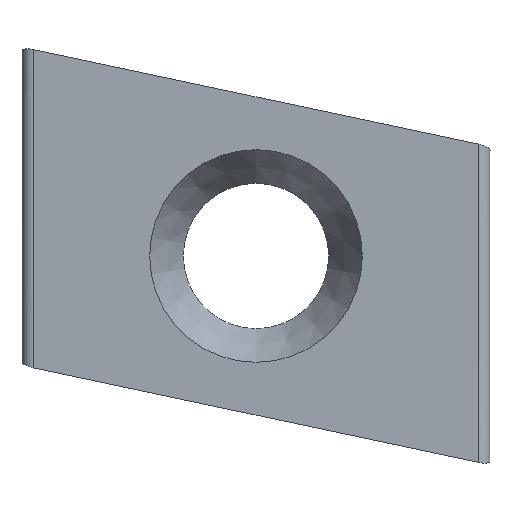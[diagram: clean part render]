
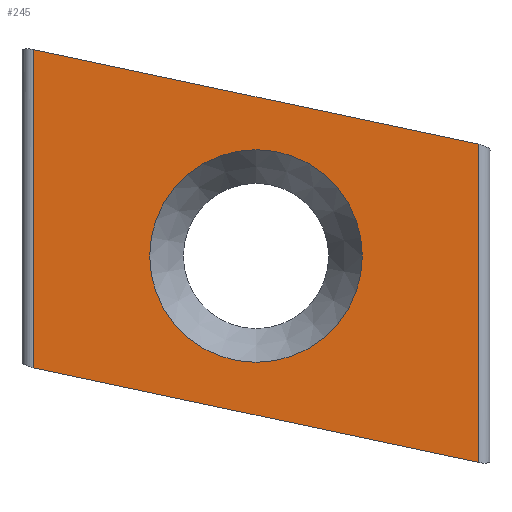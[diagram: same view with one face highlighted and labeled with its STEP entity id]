
A CAD part, front view. The second image highlights one B-rep face of the part: STEP entity #245.
In plain terms, the highlighted planar face has unit normal (0, -1, 0).
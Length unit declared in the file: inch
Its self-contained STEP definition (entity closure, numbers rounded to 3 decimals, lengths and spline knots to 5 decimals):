
#3 = CARTESIAN_POINT ( 'NONE',  ( -0.27056, 0., 0.51155 ) ) ;
#6 = FACE_BOUND ( 'NONE', #294, .T. ) ;
#16 = VERTEX_POINT ( 'NONE', #91 ) ;
#24 = CARTESIAN_POINT ( 'NONE',  ( -0.2677, 0., 0.12786 ) ) ;
#31 = VECTOR ( 'NONE', #204, 39.37008 ) ;
#44 = CARTESIAN_POINT ( 'NONE',  ( 0., 0., 0.2625 ) ) ;
#56 = EDGE_CURVE ( 'NONE', #151, #229, #237, .T. ) ;
#57 = CARTESIAN_POINT ( 'NONE',  ( 0.2677, 0., 0.39714 ) ) ;
#72 = EDGE_CURVE ( 'NONE', #327, #327, #209, .T. ) ;
#77 = EDGE_CURVE ( 'NONE', #229, #16, #152, .T. ) ;
#84 = VECTOR ( 'NONE', #309, 39.37008 ) ;
#91 = CARTESIAN_POINT ( 'NONE',  ( 0.2677, 0., 0.01405 ) ) ;
#93 = VERTEX_POINT ( 'NONE', #24 ) ;
#97 = CARTESIAN_POINT ( 'NONE',  ( -0.2677, 0., 0.525 ) ) ;
#98 = EDGE_CURVE ( 'NONE', #16, #93, #182, .T. ) ;
#99 = DIRECTION ( 'NONE',  ( -0.978, 0., 0.208 ) ) ;
#116 = ORIENTED_EDGE ( 'NONE', *, *, #72, .F. ) ;
#127 = AXIS2_PLACEMENT_3D ( 'NONE', #133, #291, #165 ) ;
#131 = EDGE_CURVE ( 'NONE', #151, #93, #279, .T. ) ;
#133 = CARTESIAN_POINT ( 'NONE',  ( -0.2677, 0., 0.525 ) ) ;
#151 = VERTEX_POINT ( 'NONE', #155 ) ;
#152 = LINE ( 'NONE', #257, #84 ) ;
#155 = CARTESIAN_POINT ( 'NONE',  ( -0.2677, 0., 0.51095 ) ) ;
#165 = DIRECTION ( 'NONE',  ( -1., 0., 0. ) ) ;
#174 = ORIENTED_EDGE ( 'NONE', *, *, #77, .F. ) ;
#177 = DIRECTION ( 'NONE',  ( 0., -1., 0. ) ) ;
#178 = DIRECTION ( 'NONE',  ( 0.978, 0., -0.208 ) ) ;
#181 = CARTESIAN_POINT ( 'NONE',  ( -0.34847, 0., 0.14502 ) ) ;
#182 = LINE ( 'NONE', #181, #332 ) ;
#190 = PLANE ( 'NONE',  #127 ) ;
#199 = ORIENTED_EDGE ( 'NONE', *, *, #131, .T. ) ;
#204 = DIRECTION ( 'NONE',  ( 0., 0., -1. ) ) ;
#205 = DIRECTION ( 'NONE',  ( 0., 0., -1. ) ) ;
#209 = CIRCLE ( 'NONE', #277, 0.128 ) ;
#222 = ORIENTED_EDGE ( 'NONE', *, *, #56, .F. ) ;
#229 = VERTEX_POINT ( 'NONE', #57 ) ;
#237 = LINE ( 'NONE', #3, #273 ) ;
#245 = ADVANCED_FACE ( 'NONE', ( #6, #313 ), #190, .F. ) ;
#248 = CARTESIAN_POINT ( 'NONE',  ( 0., 0., 0.1345 ) ) ;
#249 = ORIENTED_EDGE ( 'NONE', *, *, #98, .F. ) ;
#257 = CARTESIAN_POINT ( 'NONE',  ( 0.2677, 0., 0.525 ) ) ;
#263 = EDGE_LOOP ( 'NONE', ( #222, #199, #249, #174 ) ) ;
#273 = VECTOR ( 'NONE', #178, 39.37008 ) ;
#277 = AXIS2_PLACEMENT_3D ( 'NONE', #44, #177, #205 ) ;
#279 = LINE ( 'NONE', #97, #31 ) ;
#291 = DIRECTION ( 'NONE',  ( 0., 1., 0. ) ) ;
#294 = EDGE_LOOP ( 'NONE', ( #116 ) ) ;
#309 = DIRECTION ( 'NONE',  ( 0., 0., -1. ) ) ;
#313 = FACE_OUTER_BOUND ( 'NONE', #263, .T. ) ;
#327 = VERTEX_POINT ( 'NONE', #248 ) ;
#332 = VECTOR ( 'NONE', #99, 39.37008 ) ;
